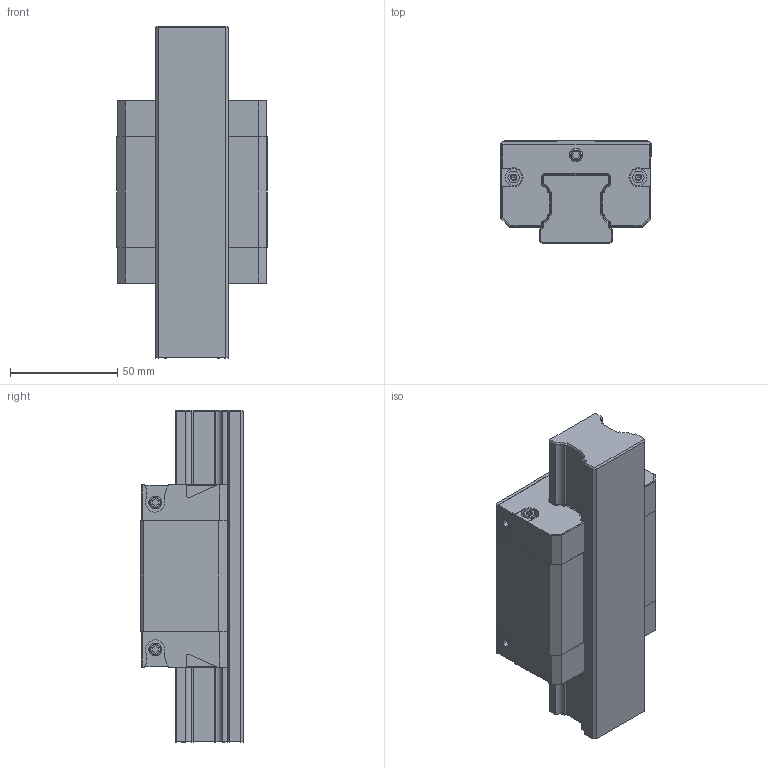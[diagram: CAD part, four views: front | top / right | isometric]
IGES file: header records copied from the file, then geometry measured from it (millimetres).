
Start section: 3D InterOp IGES (v. 2019 1.0.2), Spatial Corp. Copyright (c) 1999-2017.
Global section: file name: R1662_size35.igs; native system: Spatial Corp.; preprocessor: 3D InterOp GENERIC/IGES 3.0; author: Noname; organization: Noname; date: 20220629.125016; units: millimetre
Bounding box: 70 x 48 x 154.5 mm (x, y, z)
Surface area: 67181.9 mm2 (no closed solid volume)
Topology: 0 solids, 0 shells, 485 faces, 2526 edges, 2502 vertices
Faces by surface type: extrusion 288, revolution 197
